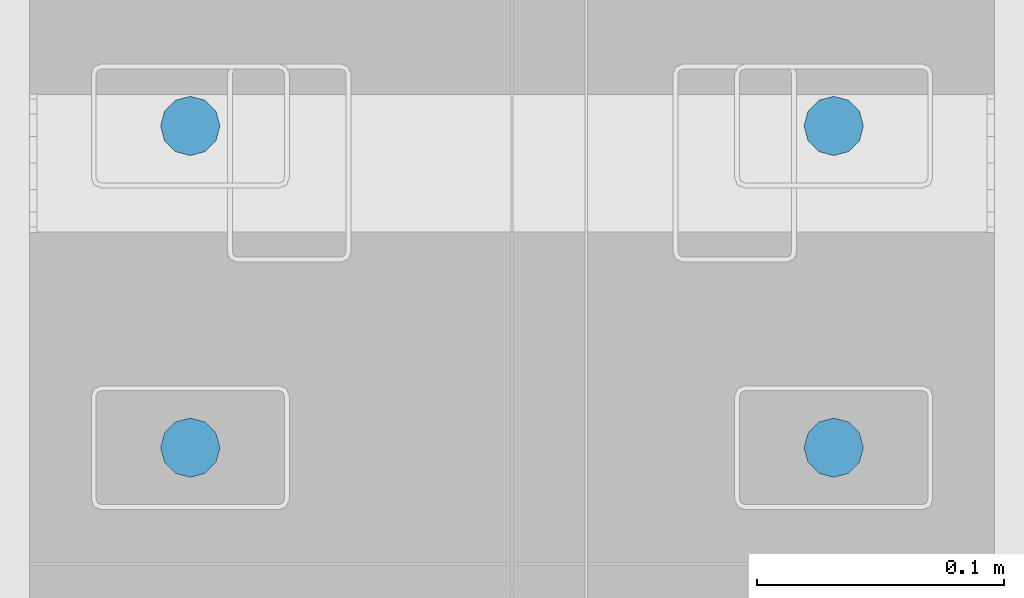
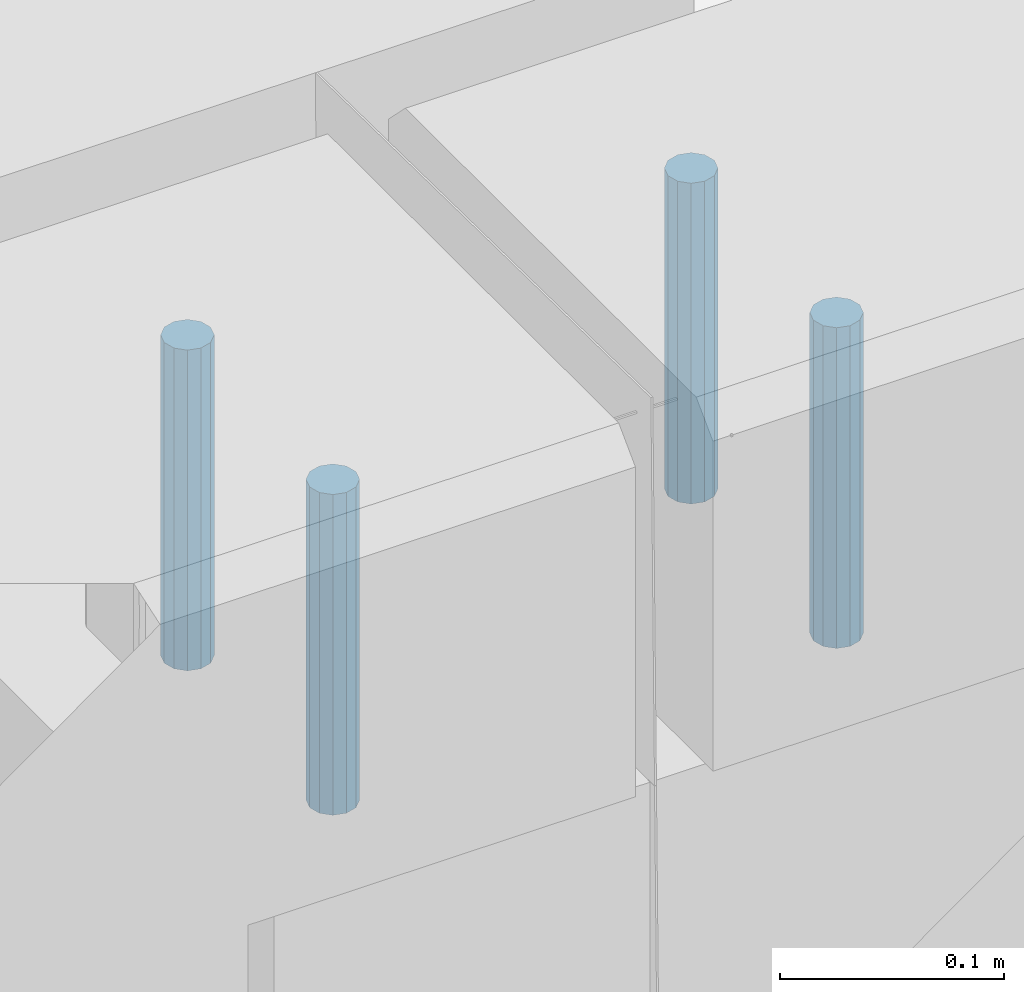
# One storey, part 139 of 186: 4 beams.
"""IFC4X3_ADD2 building model written with IfcOpenShell, lengths in millimetres."""

from ifc_helpers import new_model, si_unit, direction, frame, origin_with_axes, place, context, subcontext, project, spatial, polygons, element, save


model = new_model("IFC4X3_ADD2")

# Units and contexts
model_context = context("Model", 3, precision=1e-05, world=origin_with_axes(), true_north=direction((0.0, 1.0)))
body_context = subcontext(model_context, "Body", "Model", "MODEL_VIEW")
ifc_project = project(units=[si_unit("LENGTHUNIT", "METRE", prefix="MILLI"), si_unit("AREAUNIT", "SQUARE_METRE"), si_unit("VOLUMEUNIT", "CUBIC_METRE"), si_unit("PLANEANGLEUNIT", "RADIAN"), si_unit("TIMEUNIT", "SECOND"), si_unit("MASSUNIT", "GRAM")], contexts=[model_context])

# Site, building, storey
site_placement = place(None, origin_with_axes())
site = spatial("IfcSite", under=ifc_project, at=site_placement, Name="Site", CompositionType="ELEMENT")
building_placement = place(site_placement, origin_with_axes())
building = spatial("IfcBuilding", under=site, at=building_placement, Name="IFC Building Story")
storey_placement = place(building_placement, frame((0.0, 0.0, 4370.0), z_axis=(0.0, 0.0, 1.0), x_axis=(1.0, 0.0, 0.0)))
storey = spatial("IfcBuildingStorey", under=building, at=storey_placement, Name="ETAGE 10 (1)", Elevation=4370.0)

# Beams
beam_1_placement = place(storey_placement, frame((0.0, 0.0, -4370.0), z_axis=(0.0, 0.0, 1.0), x_axis=(1.0, 0.0, 0.0)))
element("IfcBeam", 1, at=beam_1_placement, inside=storey, Name="SD11", ObjectType="D24", context=body_context, shape_type="Tessellation", body=[
    polygons([(40084.1886988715, -14379.999992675, 7707.905416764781), (40084.1886988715, -14379.999992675, 7532.90541676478), (40085.79639402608, -14385.999992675, 7532.90541676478), (40085.79639402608, -14385.999992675, 7707.905416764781), (40090.1886988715, -14390.39229752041, 7532.90541676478), (40090.1886988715, -14390.39229752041, 7707.905416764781), (40096.1886988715, -14391.999992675, 7532.90541676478), (40096.1886988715, -14391.999992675, 7707.905416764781), (40102.1886988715, -14390.39229752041, 7532.90541676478), (40102.1886988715, -14390.39229752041, 7707.905416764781), (40106.58100371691, -14385.999992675, 7532.90541676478), (40106.58100371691, -14385.999992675, 7707.905416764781), (40108.1886988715, -14379.999992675, 7532.90541676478), (40108.1886988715, -14379.999992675, 7707.905416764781), (40106.58100371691, -14373.999992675, 7532.90541676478), (40106.58100371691, -14373.999992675, 7707.905416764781), (40102.1886988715, -14369.60768782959, 7532.90541676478), (40102.1886988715, -14369.60768782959, 7707.905416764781), (40096.1886988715, -14367.999992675, 7532.90541676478), (40096.1886988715, -14367.999992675, 7707.905416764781), (40090.1886988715, -14369.60768782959, 7532.90541676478), (40090.1886988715, -14369.60768782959, 7707.905416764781), (40085.79639402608, -14373.999992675, 7532.90541676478), (40085.79639402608, -14373.999992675, 7707.905416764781)], [[[1, 2, 3, 4]], [[4, 3, 5, 6]], [[6, 5, 7, 8]], [[8, 7, 9, 10]], [[10, 9, 11, 12]], [[12, 11, 13, 14]], [[14, 13, 15, 16]], [[16, 15, 17, 18]], [[18, 17, 19, 20]], [[20, 19, 21, 22]], [[22, 21, 23, 24]], [[24, 23, 2, 1]], [[4, 6, 8]], [[4, 8, 10]], [[4, 10, 12]], [[4, 12, 14]], [[4, 14, 16]], [[4, 16, 18]], [[4, 18, 20]], [[4, 20, 22]], [[4, 22, 24]], [[4, 24, 1]], [[2, 23, 21]], [[2, 21, 19]], [[2, 19, 17]], [[2, 17, 15]], [[2, 15, 13]], [[2, 13, 11]], [[2, 11, 9]], [[2, 9, 7]], [[2, 7, 5]], [[2, 5, 3]]]),
])
beam_2_placement = place(storey_placement, frame((0.0, 0.0, -4370.0), z_axis=(0.0, 0.0, 1.0), x_axis=(1.0, 0.0, 0.0)))
element("IfcBeam", 2, at=beam_2_placement, inside=storey, Name="SD11", ObjectType="D24", context=body_context, shape_type="Tessellation", body=[
    polygons([(40084.1886988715, -14249.999992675, 7707.905416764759), (40084.1886988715, -14249.999992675, 7532.90541676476), (40085.79639402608, -14255.999992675, 7532.90541676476), (40085.79639402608, -14255.999992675, 7707.905416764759), (40090.1886988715, -14260.39229752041, 7532.90541676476), (40090.1886988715, -14260.39229752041, 7707.905416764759), (40096.1886988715, -14261.999992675, 7532.90541676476), (40096.1886988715, -14261.999992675, 7707.905416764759), (40102.1886988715, -14260.39229752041, 7532.90541676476), (40102.1886988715, -14260.39229752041, 7707.905416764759), (40106.58100371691, -14255.999992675, 7532.90541676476), (40106.58100371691, -14255.999992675, 7707.905416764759), (40108.1886988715, -14249.999992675, 7532.90541676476), (40108.1886988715, -14249.999992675, 7707.905416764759), (40106.58100371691, -14243.999992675, 7532.90541676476), (40106.58100371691, -14243.999992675, 7707.905416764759), (40102.1886988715, -14239.60768782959, 7532.90541676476), (40102.1886988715, -14239.60768782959, 7707.905416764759), (40096.1886988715, -14237.999992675, 7532.90541676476), (40096.1886988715, -14237.999992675, 7707.905416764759), (40090.1886988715, -14239.60768782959, 7532.90541676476), (40090.1886988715, -14239.60768782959, 7707.905416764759), (40085.79639402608, -14243.999992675, 7532.90541676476), (40085.79639402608, -14243.999992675, 7707.905416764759)], [[[1, 2, 3, 4]], [[4, 3, 5, 6]], [[6, 5, 7, 8]], [[8, 7, 9, 10]], [[10, 9, 11, 12]], [[12, 11, 13, 14]], [[14, 13, 15, 16]], [[16, 15, 17, 18]], [[18, 17, 19, 20]], [[20, 19, 21, 22]], [[22, 21, 23, 24]], [[24, 23, 2, 1]], [[4, 6, 8]], [[4, 8, 10]], [[4, 10, 12]], [[4, 12, 14]], [[4, 14, 16]], [[4, 16, 18]], [[4, 18, 20]], [[4, 20, 22]], [[4, 22, 24]], [[4, 24, 1]], [[2, 23, 21]], [[2, 21, 19]], [[2, 19, 17]], [[2, 17, 15]], [[2, 15, 13]], [[2, 13, 11]], [[2, 11, 9]], [[2, 9, 7]], [[2, 7, 5]], [[2, 5, 3]]]),
])
beam_3_placement = place(storey_placement, frame((0.0, 0.0, -4370.0), z_axis=(0.0, 0.0, 1.0), x_axis=(1.0, 0.0, 0.0)))
element("IfcBeam", 3, at=beam_3_placement, inside=storey, Name="SD11", ObjectType="D24", context=body_context, shape_type="Tessellation", body=[
    polygons([(39824.1886988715, -14379.999992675, 7707.905416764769), (39824.1886988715, -14379.999992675, 7532.90541676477), (39825.79639402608, -14385.999992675, 7532.90541676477), (39825.79639402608, -14385.999992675, 7707.905416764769), (39830.1886988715, -14390.39229752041, 7532.90541676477), (39830.1886988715, -14390.39229752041, 7707.905416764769), (39836.1886988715, -14391.999992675, 7532.90541676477), (39836.1886988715, -14391.999992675, 7707.905416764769), (39842.1886988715, -14390.39229752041, 7532.90541676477), (39842.1886988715, -14390.39229752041, 7707.905416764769), (39846.58100371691, -14385.999992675, 7532.90541676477), (39846.58100371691, -14385.999992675, 7707.905416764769), (39848.1886988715, -14379.999992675, 7532.90541676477), (39848.1886988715, -14379.999992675, 7707.905416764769), (39846.58100371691, -14373.999992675, 7532.90541676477), (39846.58100371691, -14373.999992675, 7707.905416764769), (39842.1886988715, -14369.60768782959, 7532.90541676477), (39842.1886988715, -14369.60768782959, 7707.905416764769), (39836.1886988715, -14367.999992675, 7532.90541676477), (39836.1886988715, -14367.999992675, 7707.905416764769), (39830.1886988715, -14369.60768782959, 7532.90541676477), (39830.1886988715, -14369.60768782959, 7707.905416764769), (39825.79639402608, -14373.999992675, 7532.90541676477), (39825.79639402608, -14373.999992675, 7707.905416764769)], [[[1, 2, 3, 4]], [[4, 3, 5, 6]], [[6, 5, 7, 8]], [[8, 7, 9, 10]], [[10, 9, 11, 12]], [[12, 11, 13, 14]], [[14, 13, 15, 16]], [[16, 15, 17, 18]], [[18, 17, 19, 20]], [[20, 19, 21, 22]], [[22, 21, 23, 24]], [[24, 23, 2, 1]], [[4, 6, 8]], [[4, 8, 10]], [[4, 10, 12]], [[4, 12, 14]], [[4, 14, 16]], [[4, 16, 18]], [[4, 18, 20]], [[4, 20, 22]], [[4, 22, 24]], [[4, 24, 1]], [[2, 23, 21]], [[2, 21, 19]], [[2, 19, 17]], [[2, 17, 15]], [[2, 15, 13]], [[2, 13, 11]], [[2, 11, 9]], [[2, 9, 7]], [[2, 7, 5]], [[2, 5, 3]]]),
])
beam_4_placement = place(storey_placement, frame((0.0, 0.0, -4370.0), z_axis=(0.0, 0.0, 1.0), x_axis=(1.0, 0.0, 0.0)))
element("IfcBeam", 4, at=beam_4_placement, inside=storey, Name="SD11", ObjectType="D24", context=body_context, shape_type="Tessellation", body=[
    polygons([(39824.1886988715, -14249.999992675, 7707.905416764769), (39824.1886988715, -14249.999992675, 7532.90541676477), (39825.79639402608, -14255.999992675, 7532.90541676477), (39825.79639402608, -14255.999992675, 7707.905416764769), (39830.1886988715, -14260.39229752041, 7532.90541676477), (39830.1886988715, -14260.39229752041, 7707.905416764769), (39836.1886988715, -14261.999992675, 7532.90541676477), (39836.1886988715, -14261.999992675, 7707.905416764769), (39842.1886988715, -14260.39229752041, 7532.90541676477), (39842.1886988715, -14260.39229752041, 7707.905416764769), (39846.58100371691, -14255.999992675, 7532.90541676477), (39846.58100371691, -14255.999992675, 7707.905416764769), (39848.1886988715, -14249.999992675, 7532.90541676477), (39848.1886988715, -14249.999992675, 7707.905416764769), (39846.58100371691, -14243.999992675, 7532.90541676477), (39846.58100371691, -14243.999992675, 7707.905416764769), (39842.1886988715, -14239.60768782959, 7532.90541676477), (39842.1886988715, -14239.60768782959, 7707.905416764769), (39836.1886988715, -14237.999992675, 7532.90541676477), (39836.1886988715, -14237.999992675, 7707.905416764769), (39830.1886988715, -14239.60768782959, 7532.90541676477), (39830.1886988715, -14239.60768782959, 7707.905416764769), (39825.79639402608, -14243.999992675, 7532.90541676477), (39825.79639402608, -14243.999992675, 7707.905416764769)], [[[1, 2, 3, 4]], [[4, 3, 5, 6]], [[6, 5, 7, 8]], [[8, 7, 9, 10]], [[10, 9, 11, 12]], [[12, 11, 13, 14]], [[14, 13, 15, 16]], [[16, 15, 17, 18]], [[18, 17, 19, 20]], [[20, 19, 21, 22]], [[22, 21, 23, 24]], [[24, 23, 2, 1]], [[4, 6, 8]], [[4, 8, 10]], [[4, 10, 12]], [[4, 12, 14]], [[4, 14, 16]], [[4, 16, 18]], [[4, 18, 20]], [[4, 20, 22]], [[4, 22, 24]], [[4, 24, 1]], [[2, 23, 21]], [[2, 21, 19]], [[2, 19, 17]], [[2, 17, 15]], [[2, 15, 13]], [[2, 13, 11]], [[2, 11, 9]], [[2, 9, 7]], [[2, 7, 5]], [[2, 5, 3]]]),
])

save(model, "model.ifc")
